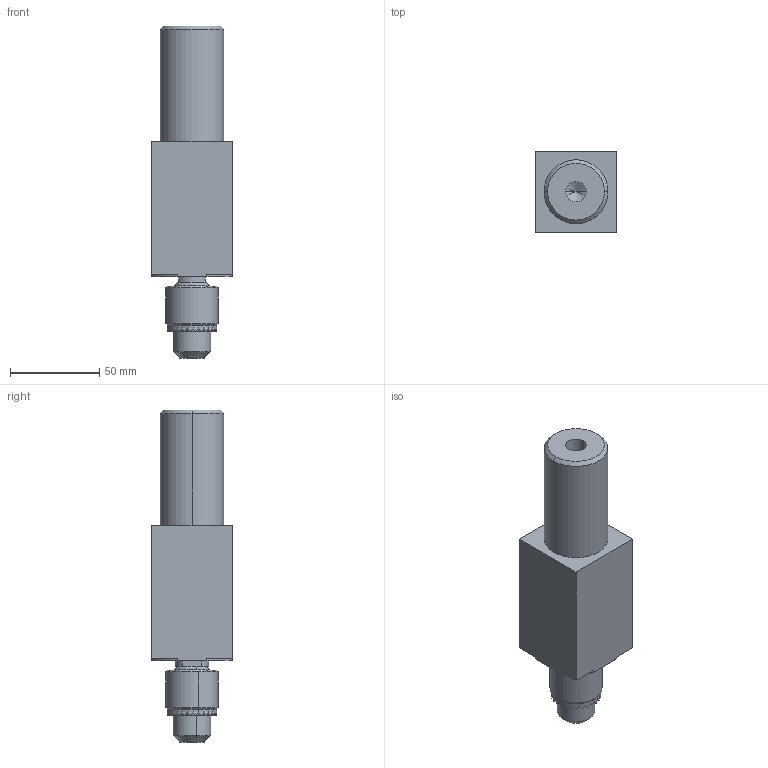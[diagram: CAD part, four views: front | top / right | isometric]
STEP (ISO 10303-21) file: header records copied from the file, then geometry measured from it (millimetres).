
FILE_DESCRIPTION (( 'STEP AP203' ), '1' );
FILE_NAME ('BE225-2211SK with keychuck 0,5-6,5mm.STEP', '2009-10-15T06:49:26', ( 'HP' ), ( '' ), 'SwSTEP 2.0', 'SolidWorks 2008', '' );
FILE_SCHEMA (( 'CONFIG_CONTROL_DESIGN' ));
Length unit declared in the file: millimetre
Products named in the file (3): BE225-2211SK with keychuck 0,5-6,5mm; BE225-2211SK; 041J004003 keychuck 0,5-6,5mm
Assembly tree (2 placements, depth 2):
  BE225-2211SK with keychuck 0,5-6,5mm
    041J004003 keychuck 0,5-6,5mm
    BE225-2211SK
Bounding box: 45 x 45 x 185.9 mm (x, y, z)
Volume: 239130.3 mm3; surface area: 31298.9 mm2
Topology: 3 solids, 3 shells, 192 faces, 486 edges, 299 vertices
Faces by surface type: plane 134, cylinder 32, cone 26
Entity records: 5887 total; most frequent: CARTESIAN_POINT 1136, ORIENTED_EDGE 944, DIRECTION 914, EDGE_CURVE 472, VECTOR 312, LINE 312, AXIS2_PLACEMENT_3D 301, VERTEX_POINT 299
